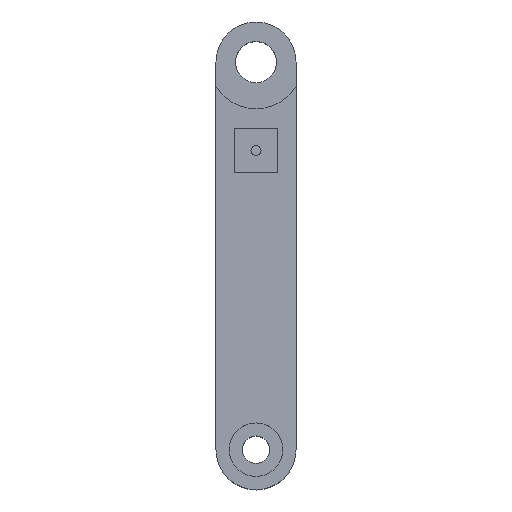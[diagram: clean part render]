
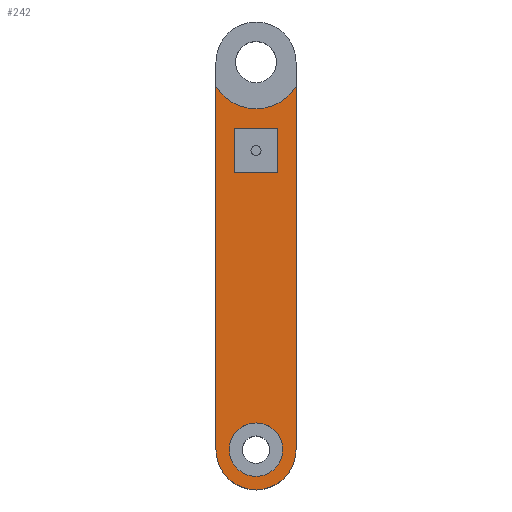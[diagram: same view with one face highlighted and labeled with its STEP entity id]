
A CAD part, top view. The second image highlights one B-rep face of the part: STEP entity #242.
In plain terms, the highlighted planar face has unit normal (0, 0, 1).
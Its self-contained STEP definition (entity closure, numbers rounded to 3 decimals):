
#24 = VERTEX_POINT ( 'NONE', #751 ) ;
#33 = LINE ( 'NONE', #634, #1601 ) ;
#37 = AXIS2_PLACEMENT_3D ( 'NONE', #106, #371, #666 ) ;
#78 = DIRECTION ( 'NONE',  ( 0., 1., 0. ) ) ;
#106 = CARTESIAN_POINT ( 'NONE',  ( 6., 58., -1. ) ) ;
#176 = LINE ( 'NONE', #736, #831 ) ;
#196 = ORIENTED_EDGE ( 'NONE', *, *, #838, .T. ) ;
#211 = EDGE_LOOP ( 'NONE', ( #1159 ) ) ;
#242 = ADVANCED_FACE ( 'NONE', ( #1674, #1085, #415 ), #1120, .T. ) ;
#275 = CIRCLE ( 'NONE', #37, 7. ) ;
#281 = CIRCLE ( 'NONE', #775, 4. ) ;
#289 = CARTESIAN_POINT ( 'NONE',  ( 2.75, 41.5, -1. ) ) ;
#292 = EDGE_CURVE ( 'NONE', #1662, #24, #1375, .T. ) ;
#293 = CARTESIAN_POINT ( 'NONE',  ( 0., 54.394, -1. ) ) ;
#304 = LINE ( 'NONE', #1420, #1418 ) ;
#305 = VECTOR ( 'NONE', #1407, 1000. ) ;
#367 = LINE ( 'NONE', #1340, #450 ) ;
#371 = DIRECTION ( 'NONE',  ( 0., 0., -1. ) ) ;
#379 = CARTESIAN_POINT ( 'NONE',  ( 9.25, 41.5, -1. ) ) ;
#398 = DIRECTION ( 'NONE',  ( 0., -1., 0. ) ) ;
#399 = EDGE_CURVE ( 'NONE', #935, #665, #176, .T. ) ;
#415 = FACE_BOUND ( 'NONE', #640, .T. ) ;
#449 = AXIS2_PLACEMENT_3D ( 'NONE', #1253, #998, #1815 ) ;
#450 = VECTOR ( 'NONE', #78, 1000. ) ;
#484 = CARTESIAN_POINT ( 'NONE',  ( 0., 54.394, -1. ) ) ;
#581 = DIRECTION ( 'NONE',  ( -1., 0., 0. ) ) ;
#605 = CARTESIAN_POINT ( 'NONE',  ( 12., 54.394, -1. ) ) ;
#615 = EDGE_CURVE ( 'NONE', #755, #935, #304, .T. ) ;
#634 = CARTESIAN_POINT ( 'NONE',  ( 2.75, 48., -1. ) ) ;
#637 = EDGE_CURVE ( 'NONE', #1111, #1111, #281, .T. ) ;
#640 = EDGE_LOOP ( 'NONE', ( #1057, #196, #983, #992 ) ) ;
#665 = VERTEX_POINT ( 'NONE', #289 ) ;
#666 = DIRECTION ( 'NONE',  ( 1., 0., 0. ) ) ;
#736 = CARTESIAN_POINT ( 'NONE',  ( 2.75, 41.5, -1. ) ) ;
#741 = DIRECTION ( 'NONE',  ( 1., 0., 0. ) ) ;
#751 = CARTESIAN_POINT ( 'NONE',  ( 0., 0., -1. ) ) ;
#755 = VERTEX_POINT ( 'NONE', #1721 ) ;
#775 = AXIS2_PLACEMENT_3D ( 'NONE', #845, #972, #1264 ) ;
#793 = EDGE_LOOP ( 'NONE', ( #1785, #1468, #1599, #1341 ) ) ;
#831 = VECTOR ( 'NONE', #581, 1000. ) ;
#838 = EDGE_CURVE ( 'NONE', #1650, #755, #33, .T. ) ;
#845 = CARTESIAN_POINT ( 'NONE',  ( 6., 0., -1. ) ) ;
#892 = AXIS2_PLACEMENT_3D ( 'NONE', #974, #1538, #1648 ) ;
#929 = EDGE_CURVE ( 'NONE', #1252, #1662, #275, .T. ) ;
#935 = VERTEX_POINT ( 'NONE', #379 ) ;
#972 = DIRECTION ( 'NONE',  ( 0., 0., 1. ) ) ;
#974 = CARTESIAN_POINT ( 'NONE',  ( 6., 58., -1. ) ) ;
#983 = ORIENTED_EDGE ( 'NONE', *, *, #615, .T. ) ;
#992 = ORIENTED_EDGE ( 'NONE', *, *, #399, .T. ) ;
#998 = DIRECTION ( 'NONE',  ( 0., 0., 1. ) ) ;
#1057 = ORIENTED_EDGE ( 'NONE', *, *, #1477, .T. ) ;
#1075 = EDGE_CURVE ( 'NONE', #24, #1580, #1151, .T. ) ;
#1085 = FACE_OUTER_BOUND ( 'NONE', #793, .T. ) ;
#1094 = VECTOR ( 'NONE', #398, 1000. ) ;
#1106 = LINE ( 'NONE', #1793, #305 ) ;
#1111 = VERTEX_POINT ( 'NONE', #1673 ) ;
#1120 = PLANE ( 'NONE',  #892 ) ;
#1151 = CIRCLE ( 'NONE', #449, 6. ) ;
#1159 = ORIENTED_EDGE ( 'NONE', *, *, #637, .F. ) ;
#1179 = CARTESIAN_POINT ( 'NONE',  ( 2.75, 48., -1. ) ) ;
#1252 = VERTEX_POINT ( 'NONE', #605 ) ;
#1253 = CARTESIAN_POINT ( 'NONE',  ( 6., 0., -1. ) ) ;
#1264 = DIRECTION ( 'NONE',  ( 1., 0., 0. ) ) ;
#1340 = CARTESIAN_POINT ( 'NONE',  ( 12., 54.394, -1. ) ) ;
#1341 = ORIENTED_EDGE ( 'NONE', *, *, #1384, .T. ) ;
#1375 = LINE ( 'NONE', #293, #1094 ) ;
#1384 = EDGE_CURVE ( 'NONE', #1580, #1252, #367, .T. ) ;
#1394 = DIRECTION ( 'NONE',  ( 0., -1., 0. ) ) ;
#1407 = DIRECTION ( 'NONE',  ( 0., 1., 0. ) ) ;
#1418 = VECTOR ( 'NONE', #1394, 1000. ) ;
#1420 = CARTESIAN_POINT ( 'NONE',  ( 9.25, 48., -1. ) ) ;
#1468 = ORIENTED_EDGE ( 'NONE', *, *, #292, .T. ) ;
#1477 = EDGE_CURVE ( 'NONE', #665, #1650, #1106, .T. ) ;
#1538 = DIRECTION ( 'NONE',  ( 0., 0., 1. ) ) ;
#1580 = VERTEX_POINT ( 'NONE', #1713 ) ;
#1599 = ORIENTED_EDGE ( 'NONE', *, *, #1075, .T. ) ;
#1601 = VECTOR ( 'NONE', #741, 1000. ) ;
#1648 = DIRECTION ( 'NONE',  ( 1., 0., 0. ) ) ;
#1650 = VERTEX_POINT ( 'NONE', #1179 ) ;
#1662 = VERTEX_POINT ( 'NONE', #484 ) ;
#1673 = CARTESIAN_POINT ( 'NONE',  ( 10., 0., -1. ) ) ;
#1674 = FACE_BOUND ( 'NONE', #211, .T. ) ;
#1713 = CARTESIAN_POINT ( 'NONE',  ( 12., 0., -1. ) ) ;
#1721 = CARTESIAN_POINT ( 'NONE',  ( 9.25, 48., -1. ) ) ;
#1785 = ORIENTED_EDGE ( 'NONE', *, *, #929, .T. ) ;
#1793 = CARTESIAN_POINT ( 'NONE',  ( 2.75, 48., -1. ) ) ;
#1815 = DIRECTION ( 'NONE',  ( 1., 0., 0. ) ) ;
